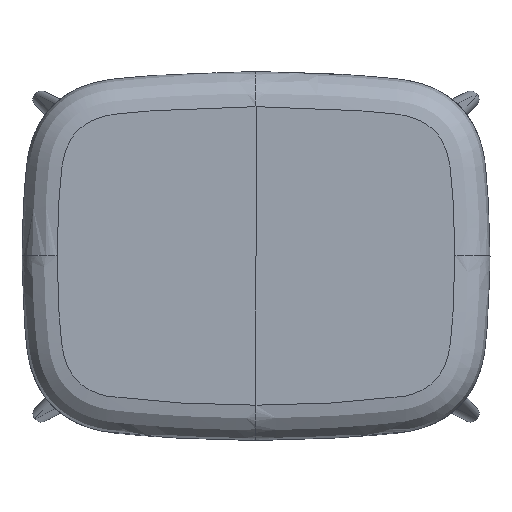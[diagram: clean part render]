
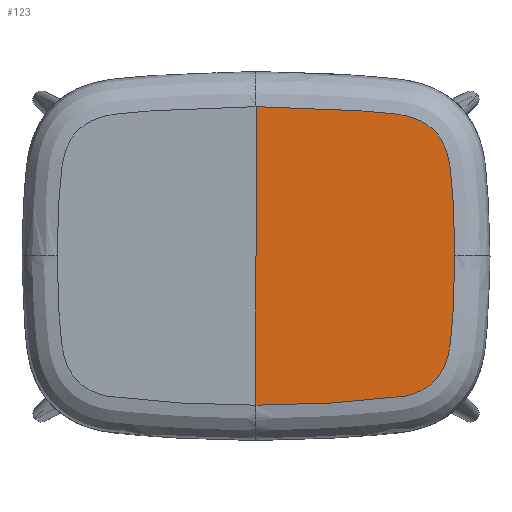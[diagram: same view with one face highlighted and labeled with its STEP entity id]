
A CAD part, top view. The second image highlights one B-rep face of the part: STEP entity #123.
In plain terms, the highlighted planar face has unit normal (0, 0, 1).
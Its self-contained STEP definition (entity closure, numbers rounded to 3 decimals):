
#123=ADVANCED_FACE('',(#339),#3504,.T.);
#339=FACE_OUTER_BOUND('',#559,.T.);
#559=EDGE_LOOP('',(#935,#936,#937));
#935=ORIENTED_EDGE('',*,*,#1943,.T.);
#936=ORIENTED_EDGE('',*,*,#1950,.F.);
#937=ORIENTED_EDGE('',*,*,#1947,.F.);
#1943=EDGE_CURVE('',#3085,#3084,#2461,.T.);
#1947=EDGE_CURVE('',#3085,#3087,#2707,.T.);
#1950=EDGE_CURVE('',#3087,#3084,#2710,.T.);
#2461=B_SPLINE_CURVE_WITH_KNOTS('',3,(#6343,#6344,#6345,#6346),
 .UNSPECIFIED.,.F.,.F.,(4,4),(40.001,380.05),
 .UNSPECIFIED.);
#2707=(
BOUNDED_CURVE()
B_SPLINE_CURVE(3,(#6382,#6383,#6384,#6385,#6386,#6387,#6388,#6389,#6390,
#6391,#6392,#6393,#6394,#6395,#6396,#6397,#6398,#6399,#6400,#6401,#6402,
#6403,#6404,#6405,#6406,#6407,#6408,#6409,#6410),.UNSPECIFIED.,.F.,.F.)
B_SPLINE_CURVE_WITH_KNOTS((4,1,1,3,1,1,1,1,1,1,1,1,1,1,1,1,1,1,1,3,1,1,
4),(0.,19.711,64.059,157.565,
165.337,172.743,179.57,185.876,191.737,
197.242,202.498,207.463,212.416,217.639,
223.091,228.881,235.103,241.835,249.141,
257.845,304.431,354.084,355.666),
 .UNSPECIFIED.)
CURVE()
GEOMETRIC_REPRESENTATION_ITEM()
RATIONAL_B_SPLINE_CURVE((1.,1.,1.,1.,1.,1.,1.,1.,1.,1.,1.,1.,1.,1.,1.,1.,
1.,1.,1.,1.,1.,1.,1.,1.,1.,1.,1.,1.,1.))
REPRESENTATION_ITEM('')
);
#2710=(
BOUNDED_CURVE()
B_SPLINE_CURVE(3,(#6460,#6461,#6462,#6463,#6464,#6465,#6466,#6467,#6468,
#6469,#6470,#6471,#6472,#6473,#6474,#6475,#6476,#6477,#6478,#6479,#6480,
#6481,#6482,#6483,#6484,#6485,#6486,#6487,#6488,#6489,#6490,#6491,#6492,
#6493,#6494,#6495,#6496,#6497,#6498,#6499,#6500,#6501,#6502,#6503,#6504,
#6505),.UNSPECIFIED.,.F.,.F.)
B_SPLINE_CURVE_WITH_KNOTS((4,1,1,1,1,1,1,1,1,1,1,1,1,1,1,1,1,3,1,1,1,1,
1,1,1,1,1,1,1,1,1,1,1,3,1,1,1,1,1,4),(355.666,355.881,
356.095,356.31,356.525,356.74,356.955,
357.17,357.384,363.215,369.046,380.707,
392.368,404.029,416.428,428.827,441.225,
453.624,461.372,468.753,475.554,481.835,
487.674,493.163,498.408,503.369,508.326,
513.559,519.027,524.838,531.084,537.841,
545.173,553.903,598.809,643.715,666.504,
689.293,711.097,711.469),.UNSPECIFIED.)
CURVE()
GEOMETRIC_REPRESENTATION_ITEM()
RATIONAL_B_SPLINE_CURVE((1.,1.,1.,1.,1.,1.,1.,1.,1.,1.,1.,1.,1.,1.,1.,1.,
1.,1.,1.,1.,1.,1.,1.,1.,1.,1.,1.,1.,1.,1.,1.,1.,1.,1.,1.,1.,1.,1.,1.,1.,
1.,1.,1.,1.,1.,1.))
REPRESENTATION_ITEM('')
);
#3084=VERTEX_POINT('',#6329);
#3085=VERTEX_POINT('',#6330);
#3087=VERTEX_POINT('',#6332);
#3504=PLANE('',#3672);
#3672=AXIS2_PLACEMENT_3D('',#5167,#3832,$);
#3832=DIRECTION('',(0.,0.,1.));
#5167=CARTESIAN_POINT('',(533.185,0.,406.369));
#6329=CARTESIAN_POINT('',(266.592,40.,406.369));
#6330=CARTESIAN_POINT('',(266.592,380.049,406.369));
#6332=CARTESIAN_POINT('',(493.183,210.094,406.369));
#6343=CARTESIAN_POINT('',(266.592,380.049,406.369));
#6344=CARTESIAN_POINT('',(266.592,266.699,406.369));
#6345=CARTESIAN_POINT('',(266.592,153.35,406.369));
#6346=CARTESIAN_POINT('',(266.592,40.,406.369));
#6382=CARTESIAN_POINT('',(266.592,380.049,406.369));
#6383=CARTESIAN_POINT('',(273.163,380.05,406.369));
#6384=CARTESIAN_POINT('',(294.516,379.91,406.369));
#6385=CARTESIAN_POINT('',(347.023,378.454,406.369));
#6386=CARTESIAN_POINT('',(392.874,375.104,406.369));
#6387=CARTESIAN_POINT('',(423.876,371.887,406.369));
#6388=CARTESIAN_POINT('',(426.453,371.619,406.369));
#6389=CARTESIAN_POINT('',(431.469,370.94,406.369));
#6390=CARTESIAN_POINT('',(438.655,369.446,406.369));
#6391=CARTESIAN_POINT('',(445.237,367.54,406.369));
#6392=CARTESIAN_POINT('',(451.159,365.286,406.369));
#6393=CARTESIAN_POINT('',(456.467,362.719,406.369));
#6394=CARTESIAN_POINT('',(461.22,359.86,406.369));
#6395=CARTESIAN_POINT('',(465.443,356.744,406.369));
#6396=CARTESIAN_POINT('',(469.213,353.363,406.369));
#6397=CARTESIAN_POINT('',(472.64,349.651,406.369));
#6398=CARTESIAN_POINT('',(475.797,345.499,406.369));
#6399=CARTESIAN_POINT('',(478.693,340.83,406.369));
#6400=CARTESIAN_POINT('',(481.298,335.617,406.369));
#6401=CARTESIAN_POINT('',(483.593,329.8,406.369));
#6402=CARTESIAN_POINT('',(485.543,323.329,406.369));
#6403=CARTESIAN_POINT('',(487.162,315.917,406.369));
#6404=CARTESIAN_POINT('',(487.899,310.628,406.369));
#6405=CARTESIAN_POINT('',(488.199,307.742,406.369));
#6406=CARTESIAN_POINT('',(489.802,292.296,406.369));
#6407=CARTESIAN_POINT('',(492.32,260.306,406.369));
#6408=CARTESIAN_POINT('',(493.199,227.699,406.369));
#6409=CARTESIAN_POINT('',(493.184,210.621,406.369));
#6410=CARTESIAN_POINT('',(493.183,210.094,406.369));
#6460=CARTESIAN_POINT('',(493.183,210.094,406.369));
#6461=CARTESIAN_POINT('',(493.183,210.022,406.369));
#6462=CARTESIAN_POINT('',(493.184,209.879,406.369));
#6463=CARTESIAN_POINT('',(493.184,209.664,406.369));
#6464=CARTESIAN_POINT('',(493.184,209.449,406.369));
#6465=CARTESIAN_POINT('',(493.184,209.234,406.369));
#6466=CARTESIAN_POINT('',(493.185,209.019,406.369));
#6467=CARTESIAN_POINT('',(493.185,208.805,406.369));
#6468=CARTESIAN_POINT('',(493.185,208.59,406.369));
#6469=CARTESIAN_POINT('',(493.185,206.503,406.369));
#6470=CARTESIAN_POINT('',(493.172,202.544,406.369));
#6471=CARTESIAN_POINT('',(493.099,194.77,406.369));
#6472=CARTESIAN_POINT('',(492.914,185.054,406.369));
#6473=CARTESIAN_POINT('',(492.547,173.399,406.369));
#6474=CARTESIAN_POINT('',(492.022,161.503,406.369));
#6475=CARTESIAN_POINT('',(491.329,149.37,406.369));
#6476=CARTESIAN_POINT('',(490.459,137.001,406.369));
#6477=CARTESIAN_POINT('',(489.424,124.646,406.369));
#6478=CARTESIAN_POINT('',(488.625,116.419,406.369));
#6479=CARTESIAN_POINT('',(488.199,112.308,406.369));
#6480=CARTESIAN_POINT('',(487.932,109.739,406.369));
#6481=CARTESIAN_POINT('',(487.254,104.739,406.369));
#6482=CARTESIAN_POINT('',(485.761,97.578,406.369));
#6483=CARTESIAN_POINT('',(483.856,91.022,406.369));
#6484=CARTESIAN_POINT('',(481.602,85.125,406.369));
#6485=CARTESIAN_POINT('',(479.035,79.84,406.369));
#6486=CARTESIAN_POINT('',(476.175,75.107,406.369));
#6487=CARTESIAN_POINT('',(473.055,70.9,406.369));
#6488=CARTESIAN_POINT('',(469.668,67.141,406.369));
#6489=CARTESIAN_POINT('',(465.945,63.72,406.369));
#6490=CARTESIAN_POINT('',(461.779,60.567,406.369));
#6491=CARTESIAN_POINT('',(457.09,57.673,406.369));
#6492=CARTESIAN_POINT('',(451.855,55.068,406.369));
#6493=CARTESIAN_POINT('',(446.012,52.773,406.369));
#6494=CARTESIAN_POINT('',(439.515,50.821,406.369));
#6495=CARTESIAN_POINT('',(432.077,49.202,406.369));
#6496=CARTESIAN_POINT('',(426.771,48.463,406.369));
#6497=CARTESIAN_POINT('',(423.876,48.163,406.369));
#6498=CARTESIAN_POINT('',(408.987,46.618,406.369));
#6499=CARTESIAN_POINT('',(379.165,43.963,406.369));
#6500=CARTESIAN_POINT('',(341.693,41.734,406.369));
#6501=CARTESIAN_POINT('',(311.552,40.612,406.369));
#6502=CARTESIAN_POINT('',(289.096,40.113,406.369));
#6503=CARTESIAN_POINT('',(274.108,40.001,406.369));
#6504=CARTESIAN_POINT('',(266.716,40.,406.369));
#6505=CARTESIAN_POINT('',(266.592,40.,406.369));
